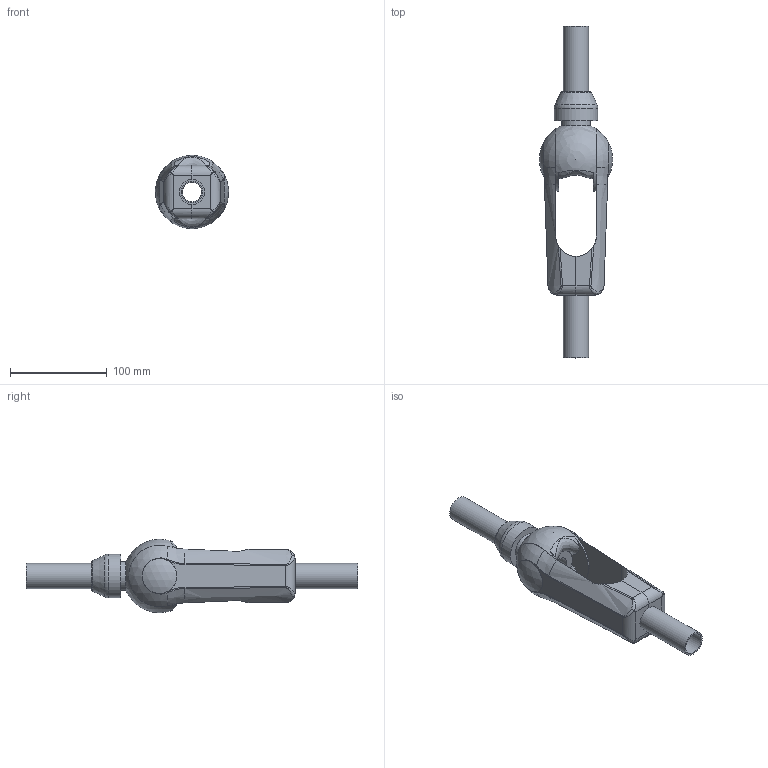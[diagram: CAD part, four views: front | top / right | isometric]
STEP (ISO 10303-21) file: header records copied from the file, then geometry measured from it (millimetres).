
FILE_DESCRIPTION((''),'2;1');
FILE_NAME('I:\Gleitlager\Konstruktion\martin\robolink\RL-50\Demodateien\Prinzip\Prinzip RL-50.stp','2009-11-12T11:20:45',('MRaak'),(''),'Autodesk Inventor 2009','Autodesk Inventor 2009','');
FILE_SCHEMA(('AUTOMOTIVE_DESIGN { 1 0 10303 214 1 1 1 1 }'));
Length unit declared in the file: millimetre
Products named in the file (5): Prinzip RL-50; Schenkel-50; Kugel-50; Drehteil-50; Stange 100
Assembly tree (6 placements, depth 2):
  Prinzip RL-50
    Schenkel-50  x2
    Kugel-50
    Drehteil-50
    Stange 100  x2
Bounding box: 75.63 x 343 x 76 mm (x, y, z)
Volume: 394997.4 mm3; surface area: 116735.5 mm2
Topology: 6 solids, 6 shells, 106 faces, 257 edges, 165 vertices
Faces by surface type: bspline 39, plane 27, cylinder 26, torus 6, sphere 5, cone 3
Full cylindrical faces by diameter (mm): 22.5 x2, 26 x3, 30 x2, 36 x4, 45 x1
Entity records: 5080 total; most frequent: CARTESIAN_POINT 3593, ORIENTED_EDGE 276, DIRECTION 245, EDGE_CURVE 138, AXIS2_PLACEMENT_3D 113, VERTEX_POINT 98, EDGE_LOOP 96, FACE_OUTER_BOUND 68
